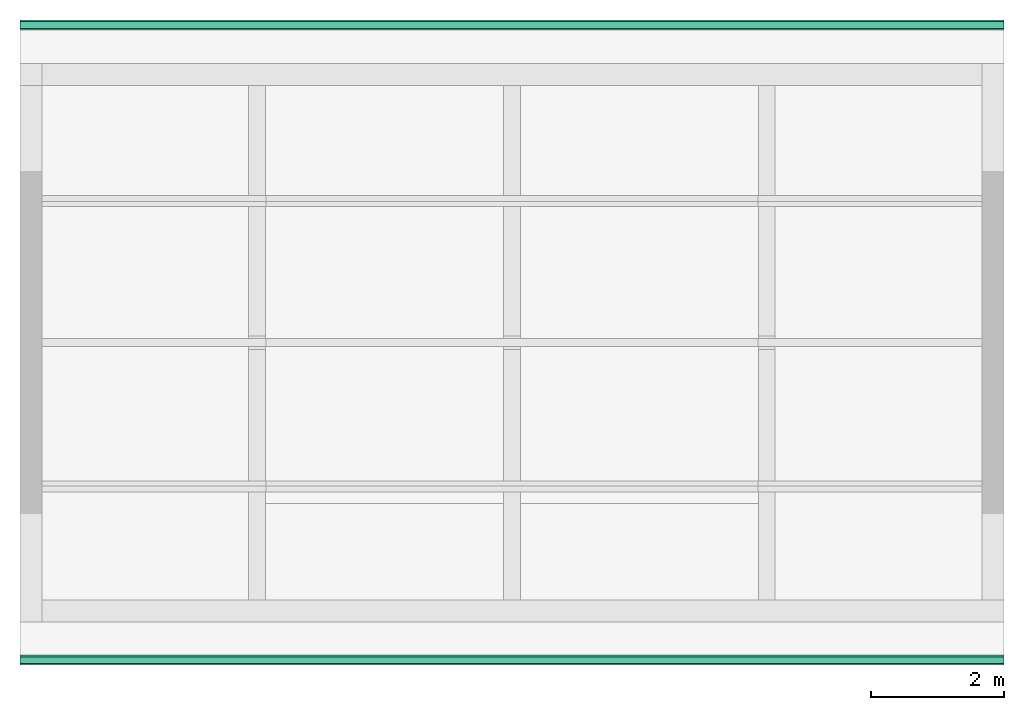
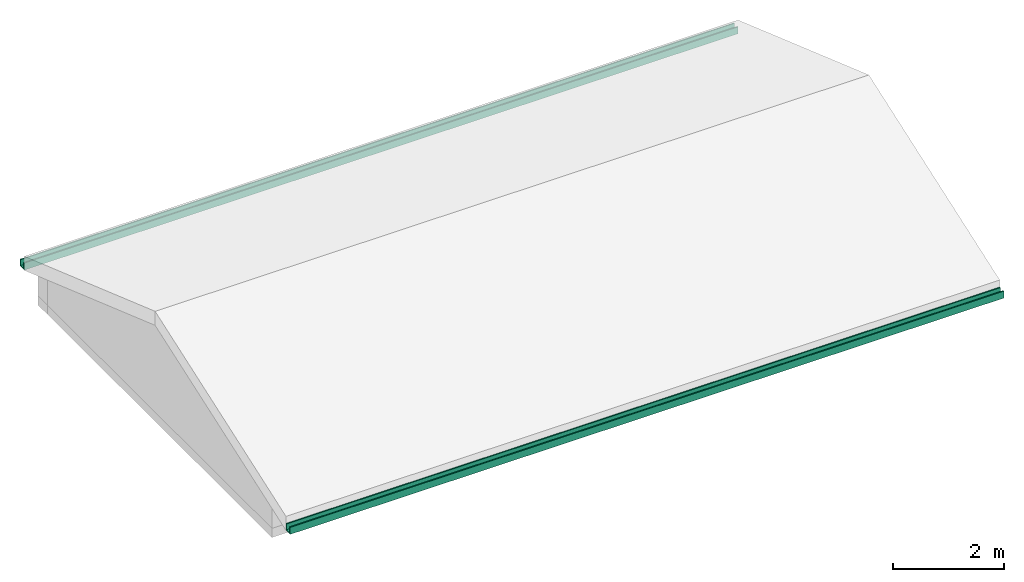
# One storey, part 2 of 3: 1 flow segment.
"""IFC2X3 building model written with IfcOpenShell, lengths in metres."""

from ifc_helpers import new_model, entity, si_unit, converted_unit, derived_unit, direction, frame, origin, place, context, subcontext, project, spatial, polyline, outline, extrude, source, transform, mapped, type_object, type_shapes, element, save


model = new_model("IFC2X3")

# Units and contexts
model_context = context("Model", 3, precision=1e-05, world=origin(), true_north=direction((6.12303176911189e-17, 1.0)))
body_context = subcontext(model_context, "Body", "Model", "MODEL_VIEW")
ifc_project = project(units=[si_unit("LENGTHUNIT", "METRE"), si_unit("AREAUNIT", "SQUARE_METRE"), si_unit("VOLUMEUNIT", "CUBIC_METRE"), converted_unit("PLANEANGLEUNIT", "DEGREE", entity("IfcRatioMeasure", 0.0174532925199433), si_unit("PLANEANGLEUNIT", "RADIAN"), dimensions=[0, 0, 0, 0, 0, 0, 0]), si_unit("MASSUNIT", "GRAM", prefix="KILO"), derived_unit("MASSDENSITYUNIT", [(si_unit("MASSUNIT", "GRAM", prefix="KILO"), 1), (si_unit("LENGTHUNIT", "METRE"), -3)]), si_unit("TIMEUNIT", "SECOND"), si_unit("FREQUENCYUNIT", "HERTZ"), si_unit("THERMODYNAMICTEMPERATUREUNIT", "DEGREE_CELSIUS"), derived_unit("THERMALTRANSMITTANCEUNIT", [(si_unit("MASSUNIT", "GRAM", prefix="KILO"), 1), (si_unit("THERMODYNAMICTEMPERATUREUNIT", "KELVIN"), -1), (si_unit("TIMEUNIT", "SECOND"), -3)]), derived_unit("VOLUMETRICFLOWRATEUNIT", [(si_unit("LENGTHUNIT", "METRE"), 3), (si_unit("TIMEUNIT", "SECOND"), -1)]), si_unit("ELECTRICCURRENTUNIT", "AMPERE"), si_unit("ELECTRICVOLTAGEUNIT", "VOLT"), si_unit("POWERUNIT", "WATT"), si_unit("FORCEUNIT", "NEWTON", prefix="KILO"), si_unit("ILLUMINANCEUNIT", "LUX"), si_unit("LUMINOUSFLUXUNIT", "LUMEN"), si_unit("LUMINOUSINTENSITYUNIT", "CANDELA"), derived_unit("USERDEFINED", [(si_unit("MASSUNIT", "GRAM", prefix="KILO"), -1), (si_unit("LENGTHUNIT", "METRE"), -2), (si_unit("TIMEUNIT", "SECOND"), 3), (si_unit("LUMINOUSFLUXUNIT", "LUMEN"), 1)]), derived_unit("LINEARVELOCITYUNIT", [(si_unit("LENGTHUNIT", "METRE"), 1), (si_unit("TIMEUNIT", "SECOND"), -1)]), si_unit("PRESSUREUNIT", "PASCAL"), derived_unit("USERDEFINED", [(si_unit("LENGTHUNIT", "METRE"), -2), (si_unit("MASSUNIT", "GRAM", prefix="KILO"), 1), (si_unit("TIMEUNIT", "SECOND"), -2)])], contexts=[model_context])

# Site, building, storey
site_placement = place(None, origin())
site = spatial("IfcSite", under=ifc_project, at=site_placement, Name="Surface", CompositionType="ELEMENT")
building_placement = place(site_placement, origin())
building = spatial("IfcBuilding", under=site, at=building_placement, CompositionType="ELEMENT")
storey_placement = place(building_placement, frame((0.0, 0.0, 5.8)))
storey = spatial("IfcBuildingStorey", under=building, at=storey_placement, Name="1er Chainage", CompositionType="ELEMENT", Elevation=5.8)

# Flow segment
pipe_segment_type = type_object("IfcPipeSegmentType", Name="Gouttière:Gouttière PVC", PredefinedType="GUTTER")
shared_shape = source(origin(), body_context, "Body", "SweptSolid", [
    extrude(outline(polyline([(-0.0698500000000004, -0.0761999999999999), (0.0825499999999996, -0.0761999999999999), (0.0825499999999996, 0.0762000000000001), (-0.0698500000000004, 0.0762000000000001), (-0.0698500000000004, 0.0508000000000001), (0.05715, 0.0508000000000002), (0.05715, -0.0507999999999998), (-0.0698500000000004, -0.0507999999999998), (-0.0698500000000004, -0.0761999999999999)])), frame((-5.00248888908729, -1.09918932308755, 0.547399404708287), z_axis=(1.0, 0.0, 0.0), x_axis=(0.0, 0.0, -1.0)), (0.0, 0.0, 1.0), 14.8),
    extrude(outline(polyline([(-0.0762000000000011, -0.0698499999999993), (-0.0508000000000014, -0.0698499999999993), (-0.0508000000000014, 0.0571500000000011), (0.0507999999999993, 0.0571500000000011), (0.0507999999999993, -0.0698499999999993), (0.0761999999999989, -0.0698499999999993), (0.0761999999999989, 0.0825500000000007), (-0.0762000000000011, 0.0825500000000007), (-0.0762000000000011, -0.0698499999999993)])), frame((-5.00248888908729, 8.4532106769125, 0.547399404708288), z_axis=(1.0, 0.0, 0.0), x_axis=(0.0, -1.0, 0.0)), (0.0, 0.0, 1.0), 14.8),
])
type_shapes(pipe_segment_type, [shared_shape])
flow_segment_placement = place(storey_placement, origin())
element("IfcFlowSegment", 1, at=flow_segment_placement, inside=storey, type_object=pipe_segment_type, Name="Gouttière:Gouttière PVC", ObjectType="Gouttière:Gouttière PVC", context=body_context, shape_type="MappedRepresentation", body=[
    mapped(shared_shape, transform((0.0, 0.0, 0.0), scale=1.0)),
])

save(model, "model.ifc")
